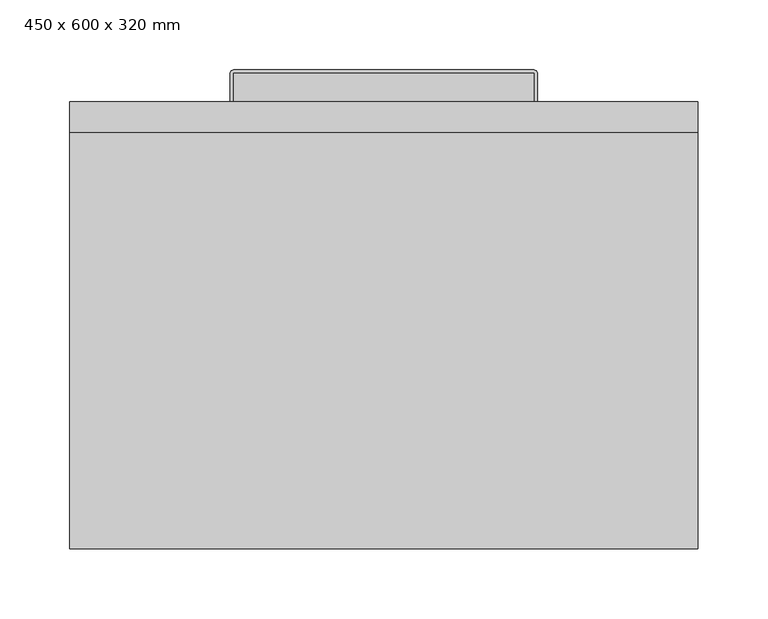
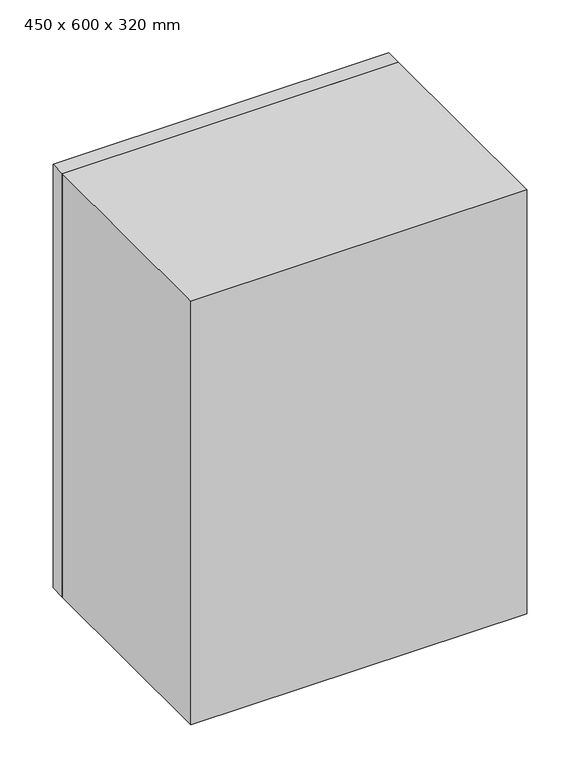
"""IFC4 building model written with IfcOpenShell, lengths in millimetres: furniture geometry, Armario superior - Puerta simple : 450 x 600 x 320 mm."""

from ifc_helpers import new_model, si_unit, point, frame, frame_2d, origin, place, context, project, spatial, polyline, circle_curve, trimmed, segment, composite_curve, outline, extrude, faceted_brep, source, transform, mapped, element, save


def furniture_450_x_600_x_320_mm_511ace29(model_context):
    return source(origin(), model_context, "Body", "SolidModel", [
        extrude(outline(composite_curve([segment(polyline([(67.0, 330.0), (67.0, 350.5)]), True, "CONTINUOUS"), segment(trimmed(circle_curve(frame_2d((67.5, 350.5)), 0.5), [point((67.0, 350.5))], [point((67.5, 351.0))], False, "CARTESIAN"), True, "CONTINUOUS"), segment(polyline([(67.5, 351.0), (282.5, 351.0)]), True, "CONTINUOUS"), segment(trimmed(circle_curve(frame_2d((282.5, 350.5)), 0.5), [point((282.5, 351.0))], [point((283.0, 350.5))], False, "CARTESIAN"), True, "CONTINUOUS"), segment(polyline([(283.0, 350.5), (283.0, 330.0), (67.0, 330.0)]), True, "CONTINUOUS")], self_intersect=False)), frame((0.0, 0.0, 1449.765389), z_axis=(0.0, 0.0, 1.0), x_axis=(1.0, 0.0, 0.0)), (0.0, 0.0, 1.0), 6.4890959),
        extrude(outline(composite_curve([segment(polyline([(65.0, 330.0), (65.0, 350.5)]), True, "CONTINUOUS"), segment(trimmed(circle_curve(frame_2d((67.5, 350.5)), 2.5), [point((65.0, 350.5))], [point((67.5, 353.0))], False, "CARTESIAN"), True, "CONTINUOUS"), segment(polyline([(67.5, 353.0), (282.5, 353.0)]), True, "CONTINUOUS"), segment(trimmed(circle_curve(frame_2d((282.5, 350.5)), 2.5), [point((282.5, 353.0))], [point((285.0, 350.5))], False, "CARTESIAN"), True, "CONTINUOUS"), segment(polyline([(285.0, 350.5), (285.0, 330.0), (283.0, 330.0), (283.0, 350.5)]), True, "CONTINUOUS"), segment(trimmed(circle_curve(frame_2d((282.5, 350.5)), 0.5), [point((283.0, 350.5))], [point((282.5, 351.0))], True, "CARTESIAN"), True, "CONTINUOUS"), segment(polyline([(282.5, 351.0), (67.5, 351.0)]), True, "CONTINUOUS"), segment(trimmed(circle_curve(frame_2d((67.5, 350.5)), 0.5), [point((67.5, 351.0))], [point((67.0, 350.5))], True, "CARTESIAN"), True, "CONTINUOUS"), segment(polyline([(67.0, 350.5), (67.0, 330.0), (65.0, 330.0)]), True, "CONTINUOUS")], self_intersect=False)), frame((0.0, 0.0, 1447.0), z_axis=(0.0, 0.0, 1.0), x_axis=(1.0, 0.0, 0.0)), (0.0, 0.0, 1.0), 12.0),
        faceted_brep([(378.0, 308.0, 1422.0), (-28.0, 308.0, 1422.0), (-28.0, 32.0, 1422.0), (378.0, 32.0, 1422.0), (400.0, 308.0, 1400.0), (400.0, 10.0, 1400.0), (-50.0, 10.0, 1400.0), (-50.0, 308.0, 1400.0), (-50.0, 308.0, 2000.0), (400.0, 308.0, 2000.0), (378.0, 308.0, 1978.0), (-28.0, 308.0, 1978.0), (-50.0, 10.0, 2000.0), (400.0, 10.0, 2000.0), (378.0, 32.0, 1978.0), (-28.0, 32.0, 1978.0)], [[[0, 1, 2, 3]], [[4, 5, 6, 7]], [[8, 9, 4, 7], [0, 10, 11, 1]], [[8, 7, 6, 12]], [[12, 6, 5, 13]], [[13, 5, 4, 9]], [[10, 0, 3, 14]], [[14, 3, 2, 15]], [[1, 11, 15, 2]], [[9, 8, 12, 13]], [[11, 10, 14, 15]]]),
        extrude(outline(polyline([(-50.0, 330.0), (400.0, 330.0), (400.0, 308.0), (-50.0, 308.0), (-50.0, 330.0)])), frame((0.0, 0.0, 1400.0), z_axis=(0.0, 0.0, 1.0), x_axis=(1.0, 0.0, 0.0)), (0.0, 0.0, 1.0), 600.0),
    ])


if __name__ == "__main__":
    model = new_model("IFC4")
    model_context = context("Model", 3, world=origin())
    ifc_project = project(units=[si_unit("LENGTHUNIT", "METRE", prefix="MILLI")], contexts=[model_context])
    site = spatial("IfcSite", under=ifc_project)
    building = spatial("IfcBuilding", under=site)
    placement = place(None, origin())
    furniture_450_x_600_x_320_mm_shape = furniture_450_x_600_x_320_mm_511ace29(model_context)
    element("IfcFurniture", 1, ObjectType="Armario superior - Puerta simple : 450 x 600 x 320 mm", at=placement, inside=building, context=model_context, shape_type="MappedRepresentation", body=[
        mapped(furniture_450_x_600_x_320_mm_shape, transform((0.0, 0.0, 0.0), x_axis=(1.0, 0.0, 0.0), y_axis=(0.0, 1.0, 0.0), z_axis=(0.0, 0.0, 1.0))),
    ])
    save(model, "model.ifc")
